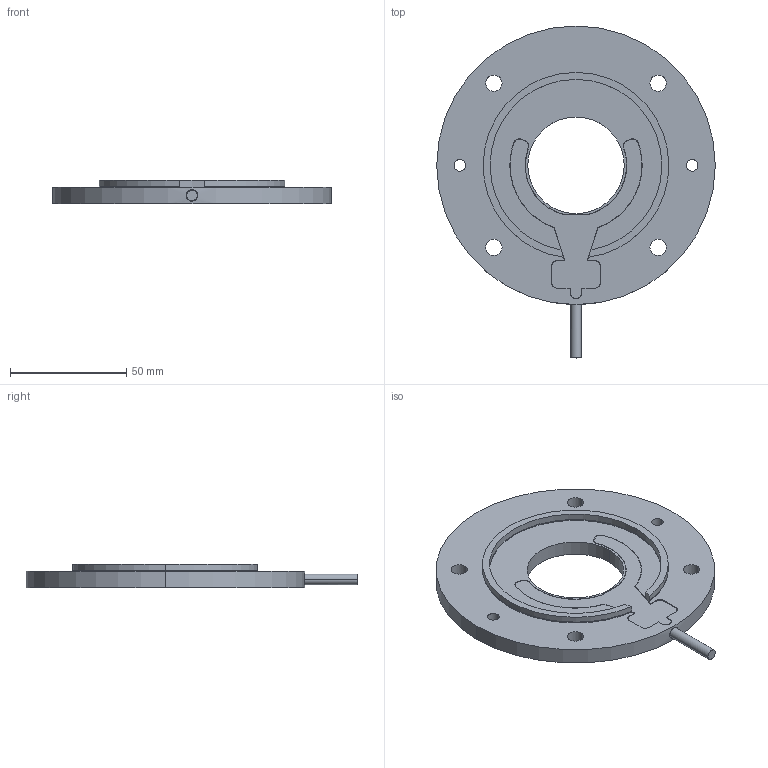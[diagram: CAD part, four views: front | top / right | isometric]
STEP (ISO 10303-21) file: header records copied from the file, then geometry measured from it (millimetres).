
FILE_DESCRIPTION (( 'STEP AP203' ), '1' );
FILE_NAME ('MRH120-7.STEP', '2024-12-16T08:49:50', ( '' ), ( '' ), 'SwSTEP 2.0', 'SolidWorks 2023', '' );
FILE_SCHEMA (( 'CONFIG_CONTROL_DESIGN' ));
Length unit declared in the file: millimetre
Products named in the file (1): MRH120-7
Bounding box: 120 x 143 x 10 mm (x, y, z)
Volume: 60910 mm3; surface area: 30030 mm2
Topology: 1 solids, 3 shells, 143 faces, 392 edges, 254 vertices
Faces by surface type: cylinder 76, plane 52, torus 11, cone 4
Entity records: 4832 total; most frequent: CARTESIAN_POINT 963, DIRECTION 848, ORIENTED_EDGE 776, EDGE_CURVE 388, AXIS2_PLACEMENT_3D 329, VERTEX_POINT 254, LINE 190, VECTOR 190
